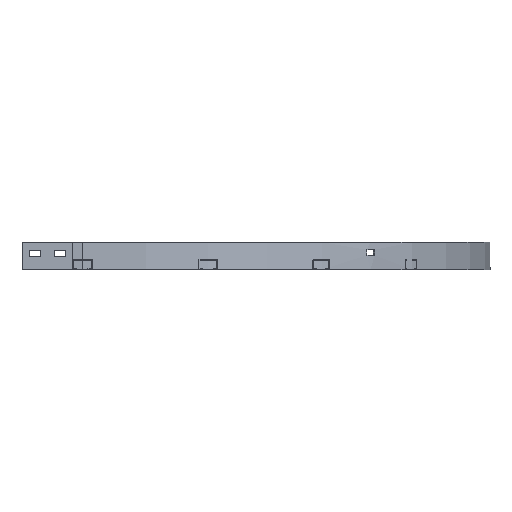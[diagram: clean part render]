
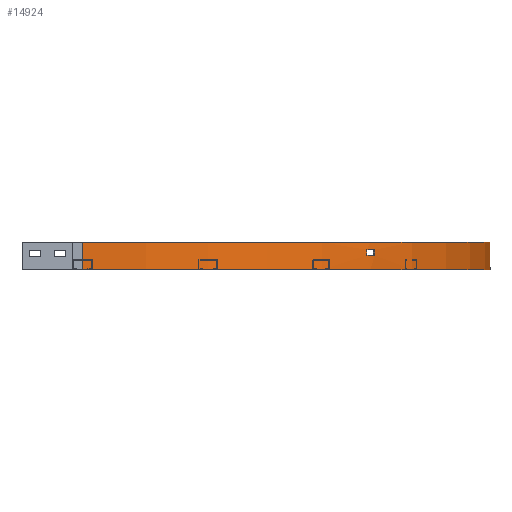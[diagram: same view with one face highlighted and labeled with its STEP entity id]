
A CAD part, front view. The second image highlights one B-rep face of the part: STEP entity #14924.
In plain terms, the highlighted cylindrical face has radius 811 mm (diameter 1622 mm), a partial arc.
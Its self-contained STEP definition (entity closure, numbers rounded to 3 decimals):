
#383=FACE_BOUND('',#2164,.T.);
#691=CYLINDRICAL_SURFACE('',#15719,811.);
#724=CIRCLE('',#15711,811.);
#729=CIRCLE('',#15718,811.);
#730=CIRCLE('',#15720,811.);
#731=CIRCLE('',#15721,811.);
#1394=FACE_OUTER_BOUND('',#2163,.T.);
#2163=EDGE_LOOP('',(#10100,#10101,#10102,#10103));
#2164=EDGE_LOOP('',(#10104,#10105,#10106,#10107));
#3239=LINE('',#20737,#4795);
#3245=LINE('',#20761,#4801);
#3246=LINE('',#20766,#4802);
#3247=LINE('',#20769,#4803);
#4795=VECTOR('',#16894,304.8);
#4801=VECTOR('',#16920,304.8);
#4802=VECTOR('',#16923,304.8);
#4803=VECTOR('',#16926,304.8);
#6348=VERTEX_POINT('',#20730);
#6351=VERTEX_POINT('',#20735);
#6352=VERTEX_POINT('',#20739);
#6359=VERTEX_POINT('',#20757);
#6360=VERTEX_POINT('',#20762);
#6361=VERTEX_POINT('',#20763);
#6362=VERTEX_POINT('',#20765);
#6363=VERTEX_POINT('',#20767);
#7839=EDGE_CURVE('',#6351,#6348,#3239,.T.);
#7840=EDGE_CURVE('',#6348,#6352,#724,.T.);
#7850=EDGE_CURVE('',#6359,#6351,#729,.T.);
#7851=EDGE_CURVE('',#6352,#6359,#3245,.T.);
#7852=EDGE_CURVE('',#6360,#6361,#730,.T.);
#7853=EDGE_CURVE('',#6361,#6362,#3246,.T.);
#7854=EDGE_CURVE('',#6362,#6363,#731,.T.);
#7855=EDGE_CURVE('',#6363,#6360,#3247,.T.);
#10100=ORIENTED_EDGE('',*,*,#7839,.F.);
#10101=ORIENTED_EDGE('',*,*,#7850,.F.);
#10102=ORIENTED_EDGE('',*,*,#7851,.F.);
#10103=ORIENTED_EDGE('',*,*,#7840,.F.);
#10104=ORIENTED_EDGE('',*,*,#7852,.T.);
#10105=ORIENTED_EDGE('',*,*,#7853,.T.);
#10106=ORIENTED_EDGE('',*,*,#7854,.T.);
#10107=ORIENTED_EDGE('',*,*,#7855,.T.);
#14924=ADVANCED_FACE('',(#1394,#383),#691,.T.);
#15711=AXIS2_PLACEMENT_3D('',#20740,#16897,#16898);
#15718=AXIS2_PLACEMENT_3D('',#20759,#16916,#16917);
#15719=AXIS2_PLACEMENT_3D('',#20760,#16918,#16919);
#15720=AXIS2_PLACEMENT_3D('',#20764,#16921,#16922);
#15721=AXIS2_PLACEMENT_3D('',#20768,#16924,#16925);
#16894=DIRECTION('',(0.,0.,1.));
#16897=DIRECTION('center_axis',(0.,0.,1.));
#16898=DIRECTION('ref_axis',(0.,-1.,0.));
#16916=DIRECTION('center_axis',(0.,0.,-1.));
#16917=DIRECTION('ref_axis',(0.,-1.,0.));
#16918=DIRECTION('center_axis',(0.,0.,1.));
#16919=DIRECTION('ref_axis',(0.,-1.,0.));
#16920=DIRECTION('',(0.,0.,-1.));
#16921=DIRECTION('center_axis',(0.,0.,1.));
#16922=DIRECTION('ref_axis',(0.,-1.,0.));
#16923=DIRECTION('',(0.,0.,-1.));
#16924=DIRECTION('center_axis',(0.,0.,-1.));
#16925=DIRECTION('ref_axis',(0.,-1.,0.));
#16926=DIRECTION('',(0.,0.,1.));
#20730=CARTESIAN_POINT('',(-555.5,-255.5,27.));
#20735=CARTESIAN_POINT('',(-555.5,-255.5,-27.));
#20737=CARTESIAN_POINT('',(-555.5,-255.5,-27.));
#20739=CARTESIAN_POINT('',(255.5,555.5,27.));
#20740=CARTESIAN_POINT('Origin',(-555.5,555.5,27.));
#20757=CARTESIAN_POINT('',(255.5,555.5,-27.));
#20759=CARTESIAN_POINT('Origin',(-555.5,555.5,-27.));
#20760=CARTESIAN_POINT('Origin',(-555.5,555.5,0.));
#20761=CARTESIAN_POINT('',(255.5,555.5,27.));
#20762=CARTESIAN_POINT('',(10.211,-25.613,12.5));
#20763=CARTESIAN_POINT('',(25.765,-10.054,12.5));
#20764=CARTESIAN_POINT('Origin',(-555.5,555.5,12.5));
#20765=CARTESIAN_POINT('',(25.765,-10.054,1.5));
#20766=CARTESIAN_POINT('',(25.765,-10.054,12.5));
#20767=CARTESIAN_POINT('',(10.211,-25.613,1.5));
#20768=CARTESIAN_POINT('Origin',(-555.5,555.5,1.5));
#20769=CARTESIAN_POINT('',(10.211,-25.613,1.5));
